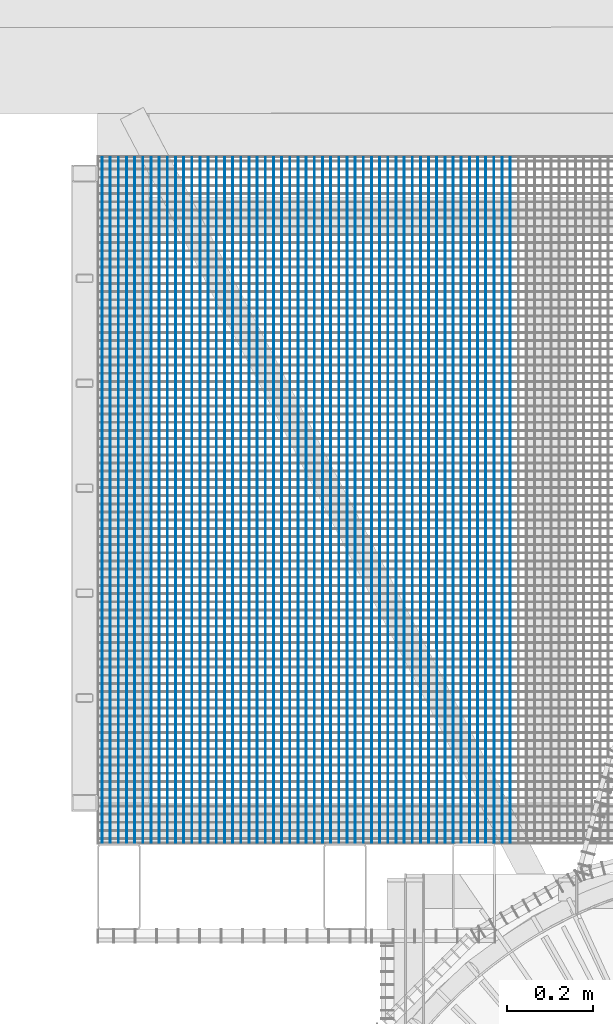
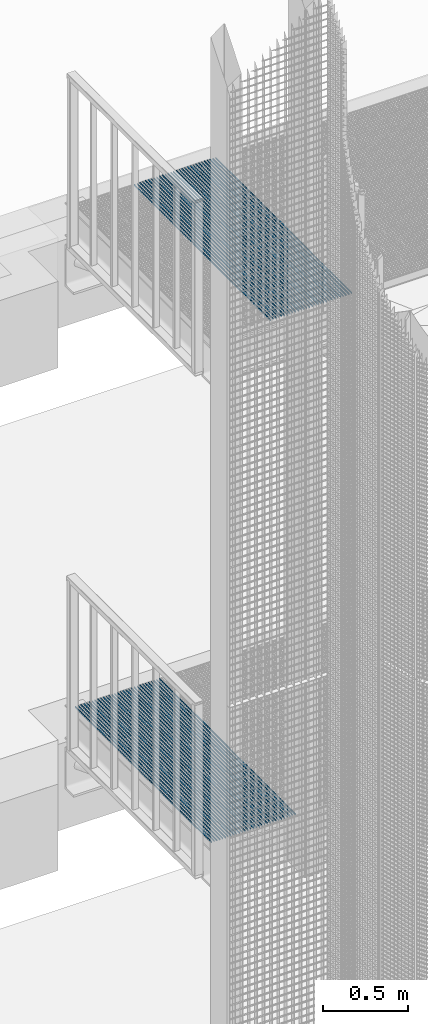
# One storey, part 79 of 1183: 61 beams, 2 elements without a shape of their own.
"""IFC2X3 building model written with IfcOpenShell, lengths in millimetres."""

from ifc_helpers import new_model, si_unit, frame, origin_with_axes, origin_2d_with_axis, place, context, subcontext, project, spatial, rectangle, extrude, material, type_object, element, aggregate, save


model = new_model("IFC2X3")

# Units and contexts
model_context = context("Model", 3, precision=1e-05, world=origin_with_axes())
body_context = subcontext(model_context, "Body", "Model", "MODEL_VIEW")
ifc_project = project(units=[si_unit("LENGTHUNIT", "METRE", prefix="MILLI"), si_unit("AREAUNIT", "SQUARE_METRE"), si_unit("VOLUMEUNIT", "CUBIC_METRE"), si_unit("MASSUNIT", "GRAM", prefix="KILO"), si_unit("TIMEUNIT", "SECOND"), si_unit("PLANEANGLEUNIT", "RADIAN"), si_unit("SOLIDANGLEUNIT", "STERADIAN"), si_unit("THERMODYNAMICTEMPERATUREUNIT", "DEGREE_CELSIUS"), si_unit("LUMINOUSINTENSITYUNIT", "LUMEN")], contexts=[model_context])

# Site, building, storey
site_placement = place(None, origin_with_axes())
site = spatial("IfcSite", under=ifc_project, at=site_placement, Name="Undefined", CompositionType="ELEMENT")
building_placement = place(site_placement, origin_with_axes())
building = spatial("IfcBuilding", under=site, at=building_placement, Name="Undefined", CompositionType="ELEMENT")
storey_placement = place(building_placement, origin_with_axes())
storey = spatial("IfcBuildingStorey", under=building, at=storey_placement, Name="Undefined", CompositionType="ELEMENT", Elevation=0.0)

# Assembly, beams
assembly_1_placement = place(storey_placement, origin_with_axes())
assembly_1 = element("IfcElementAssembly", 1, at=assembly_1_placement, inside=storey, Name="BORDURE", AssemblyPlace="NOTDEFINED", PredefinedType="NOTDEFINED")
ifc_material = material(Name="STEEL/S235JR")
beam_type = type_object("IfcBeamType", Name="PL2*10", PredefinedType="NOTDEFINED")
beam_1_placement = place(assembly_1_placement, frame((-1139.92457525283, 1101.99670793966, 13685.0), z_axis=(0.0, 0.0, 1.0), x_axis=(-4.50599999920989e-06, 0.999999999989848, 0.0)))
beam_1 = element("IfcBeam", 2, at=beam_1_placement, type_object=beam_type, material=ifc_material, Name="ENTRETOISE", context=body_context, shape_type="SweptSolid", body=[
    extrude(rectangle(XDim=2.0, YDim=10.0, at=origin_2d_with_axis()), frame((1596.0000000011, -1.35186458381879e-18, -7.27595761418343e-12), z_axis=(-1.0, 0.0, 0.0), x_axis=(0.0, -1.0, 0.0)), (0.0, 0.0, 1.0), 1596.0),
])
beam_2_placement = place(assembly_1_placement, frame((-1120.92457525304, 1101.99680145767, 13685.0), z_axis=(0.0, 0.0, 1.0), x_axis=(-4.50599999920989e-06, 0.999999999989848, 0.0)))
beam_2 = element("IfcBeam", 3, at=beam_2_placement, type_object=beam_type, material=ifc_material, Name="ENTRETOISE", context=body_context, shape_type="SweptSolid", body=[
    extrude(rectangle(XDim=2.0, YDim=10.0, at=origin_2d_with_axis()), frame((1596.0000000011, -1.35186458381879e-18, -7.27595761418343e-12), z_axis=(-1.0, 0.0, 0.0), x_axis=(0.0, -1.0, 0.0)), (0.0, 0.0, 1.0), 1596.0),
])
beam_3_placement = place(assembly_1_placement, frame((-1101.92457525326, 1101.99689497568, 13685.0), z_axis=(0.0, 0.0, 1.0), x_axis=(-4.50599999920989e-06, 0.999999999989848, 0.0)))
beam_3 = element("IfcBeam", 4, at=beam_3_placement, type_object=beam_type, material=ifc_material, Name="ENTRETOISE", context=body_context, shape_type="SweptSolid", body=[
    extrude(rectangle(XDim=2.0, YDim=10.0, at=origin_2d_with_axis()), frame((1596.0000000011, -1.35186458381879e-18, -7.27595761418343e-12), z_axis=(-1.0, 0.0, 0.0), x_axis=(0.0, -1.0, 0.0)), (0.0, 0.0, 1.0), 1596.0),
])
beam_4_placement = place(assembly_1_placement, frame((-1082.92457525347, 1101.99698849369, 13685.0), z_axis=(0.0, 0.0, 1.0), x_axis=(-4.50599999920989e-06, 0.999999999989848, 0.0)))
beam_4 = element("IfcBeam", 5, at=beam_4_placement, type_object=beam_type, material=ifc_material, Name="ENTRETOISE", context=body_context, shape_type="SweptSolid", body=[
    extrude(rectangle(XDim=2.0, YDim=10.0, at=origin_2d_with_axis()), frame((1596.0000000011, -1.35186458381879e-18, -7.27595761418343e-12), z_axis=(-1.0, 0.0, 0.0), x_axis=(0.0, -1.0, 0.0)), (0.0, 0.0, 1.0), 1596.0),
])
beam_5_placement = place(assembly_1_placement, frame((-1063.92457525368, 1101.9970820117, 13685.0), z_axis=(0.0, 0.0, 1.0), x_axis=(-4.50599999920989e-06, 0.999999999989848, 0.0)))
beam_5 = element("IfcBeam", 6, at=beam_5_placement, type_object=beam_type, material=ifc_material, Name="ENTRETOISE", context=body_context, shape_type="SweptSolid", body=[
    extrude(rectangle(XDim=2.0, YDim=10.0, at=origin_2d_with_axis()), frame((1596.0000000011, -1.35186458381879e-18, -7.27595761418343e-12), z_axis=(-1.0, 0.0, 0.0), x_axis=(0.0, -1.0, 0.0)), (0.0, 0.0, 1.0), 1596.0),
])
beam_6_placement = place(assembly_1_placement, frame((-1044.9245752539, 1101.99717552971, 13685.0), z_axis=(0.0, 0.0, 1.0), x_axis=(-4.50599999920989e-06, 0.999999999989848, 0.0)))
beam_6 = element("IfcBeam", 7, at=beam_6_placement, type_object=beam_type, material=ifc_material, Name="ENTRETOISE", context=body_context, shape_type="SweptSolid", body=[
    extrude(rectangle(XDim=2.0, YDim=10.0, at=origin_2d_with_axis()), frame((1596.0000000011, -1.35186458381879e-18, -7.27595761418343e-12), z_axis=(-1.0, 0.0, 0.0), x_axis=(0.0, -1.0, 0.0)), (0.0, 0.0, 1.0), 1596.0),
])
beam_7_placement = place(assembly_1_placement, frame((-1025.92457525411, 1101.99726904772, 13685.0), z_axis=(0.0, 0.0, 1.0), x_axis=(-4.50599999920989e-06, 0.999999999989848, 0.0)))
beam_7 = element("IfcBeam", 8, at=beam_7_placement, type_object=beam_type, material=ifc_material, Name="ENTRETOISE", context=body_context, shape_type="SweptSolid", body=[
    extrude(rectangle(XDim=2.0, YDim=10.0, at=origin_2d_with_axis()), frame((1596.0000000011, -1.35186458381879e-18, -7.27595761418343e-12), z_axis=(-1.0, 0.0, 0.0), x_axis=(0.0, -1.0, 0.0)), (0.0, 0.0, 1.0), 1596.0),
])
beam_8_placement = place(assembly_1_placement, frame((-1006.92457525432, 1101.99736256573, 13685.0), z_axis=(0.0, 0.0, 1.0), x_axis=(-4.50599999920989e-06, 0.999999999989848, 0.0)))
beam_8 = element("IfcBeam", 9, at=beam_8_placement, type_object=beam_type, material=ifc_material, Name="ENTRETOISE", context=body_context, shape_type="SweptSolid", body=[
    extrude(rectangle(XDim=2.0, YDim=10.0, at=origin_2d_with_axis()), frame((1596.0000000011, -1.35186458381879e-18, -7.27595761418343e-12), z_axis=(-1.0, 0.0, 0.0), x_axis=(0.0, -1.0, 0.0)), (0.0, 0.0, 1.0), 1596.0),
])
beam_9_placement = place(assembly_1_placement, frame((-987.924575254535, 1101.99745608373, 13685.0), z_axis=(0.0, 0.0, 1.0), x_axis=(-4.50599999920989e-06, 0.999999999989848, 0.0)))
beam_9 = element("IfcBeam", 10, at=beam_9_placement, type_object=beam_type, material=ifc_material, Name="ENTRETOISE", context=body_context, shape_type="SweptSolid", body=[
    extrude(rectangle(XDim=2.0, YDim=10.0, at=origin_2d_with_axis()), frame((1596.0000000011, -1.35186458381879e-18, -7.27595761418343e-12), z_axis=(-1.0, 0.0, 0.0), x_axis=(0.0, -1.0, 0.0)), (0.0, 0.0, 1.0), 1596.0),
])
beam_10_placement = place(assembly_1_placement, frame((-968.924575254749, 1101.99754960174, 13685.0), z_axis=(0.0, 0.0, 1.0), x_axis=(-4.50599999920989e-06, 0.999999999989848, 0.0)))
beam_10 = element("IfcBeam", 11, at=beam_10_placement, type_object=beam_type, material=ifc_material, Name="ENTRETOISE", context=body_context, shape_type="SweptSolid", body=[
    extrude(rectangle(XDim=2.0, YDim=10.0, at=origin_2d_with_axis()), frame((1596.0000000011, -1.35186458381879e-18, -7.27595761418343e-12), z_axis=(-1.0, 0.0, 0.0), x_axis=(0.0, -1.0, 0.0)), (0.0, 0.0, 1.0), 1596.0),
])
beam_11_placement = place(assembly_1_placement, frame((-949.924575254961, 1101.99764311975, 13685.0), z_axis=(0.0, 0.0, 1.0), x_axis=(-4.50599999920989e-06, 0.999999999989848, 0.0)))
beam_11 = element("IfcBeam", 12, at=beam_11_placement, type_object=beam_type, material=ifc_material, Name="ENTRETOISE", context=body_context, shape_type="SweptSolid", body=[
    extrude(rectangle(XDim=2.0, YDim=10.0, at=origin_2d_with_axis()), frame((1596.0000000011, -1.35186458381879e-18, -7.27595761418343e-12), z_axis=(-1.0, 0.0, 0.0), x_axis=(0.0, -1.0, 0.0)), (0.0, 0.0, 1.0), 1596.0),
])
beam_12_placement = place(assembly_1_placement, frame((-930.924575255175, 1101.99773663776, 13685.0), z_axis=(0.0, 0.0, 1.0), x_axis=(-4.50599999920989e-06, 0.999999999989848, 0.0)))
beam_12 = element("IfcBeam", 13, at=beam_12_placement, type_object=beam_type, material=ifc_material, Name="ENTRETOISE", context=body_context, shape_type="SweptSolid", body=[
    extrude(rectangle(XDim=2.0, YDim=10.0, at=origin_2d_with_axis()), frame((1596.0000000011, -1.35186458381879e-18, -7.27595761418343e-12), z_axis=(-1.0, 0.0, 0.0), x_axis=(0.0, -1.0, 0.0)), (0.0, 0.0, 1.0), 1596.0),
])
beam_13_placement = place(assembly_1_placement, frame((-911.924575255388, 1101.99783015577, 13685.0), z_axis=(0.0, 0.0, 1.0), x_axis=(-4.50599999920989e-06, 0.999999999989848, 0.0)))
beam_13 = element("IfcBeam", 14, at=beam_13_placement, type_object=beam_type, material=ifc_material, Name="ENTRETOISE", context=body_context, shape_type="SweptSolid", body=[
    extrude(rectangle(XDim=2.0, YDim=10.0, at=origin_2d_with_axis()), frame((1596.0000000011, -1.35186458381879e-18, -7.27595761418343e-12), z_axis=(-1.0, 0.0, 0.0), x_axis=(0.0, -1.0, 0.0)), (0.0, 0.0, 1.0), 1596.0),
])
beam_14_placement = place(assembly_1_placement, frame((-892.924575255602, 1101.99792367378, 13685.0), z_axis=(0.0, 0.0, 1.0), x_axis=(-4.50599999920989e-06, 0.999999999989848, 0.0)))
beam_14 = element("IfcBeam", 15, at=beam_14_placement, type_object=beam_type, material=ifc_material, Name="ENTRETOISE", context=body_context, shape_type="SweptSolid", body=[
    extrude(rectangle(XDim=2.0, YDim=10.0, at=origin_2d_with_axis()), frame((1596.0000000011, -1.35186458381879e-18, -7.27595761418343e-12), z_axis=(-1.0, 0.0, 0.0), x_axis=(0.0, -1.0, 0.0)), (0.0, 0.0, 1.0), 1596.0),
])
beam_15_placement = place(assembly_1_placement, frame((-873.924575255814, 1101.99801719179, 13685.0), z_axis=(0.0, 0.0, 1.0), x_axis=(-4.50599999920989e-06, 0.999999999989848, 0.0)))
beam_15 = element("IfcBeam", 16, at=beam_15_placement, type_object=beam_type, material=ifc_material, Name="ENTRETOISE", context=body_context, shape_type="SweptSolid", body=[
    extrude(rectangle(XDim=2.0, YDim=10.0, at=origin_2d_with_axis()), frame((1596.0000000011, -1.35186458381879e-18, -7.27595761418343e-12), z_axis=(-1.0, 0.0, 0.0), x_axis=(0.0, -1.0, 0.0)), (0.0, 0.0, 1.0), 1596.0),
])
beam_16_placement = place(assembly_1_placement, frame((-854.924575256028, 1101.9981107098, 13685.0), z_axis=(0.0, 0.0, 1.0), x_axis=(-4.50599999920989e-06, 0.999999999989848, 0.0)))
beam_16 = element("IfcBeam", 17, at=beam_16_placement, type_object=beam_type, material=ifc_material, Name="ENTRETOISE", context=body_context, shape_type="SweptSolid", body=[
    extrude(rectangle(XDim=2.0, YDim=10.0, at=origin_2d_with_axis()), frame((1596.0000000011, -1.35186458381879e-18, -7.27595761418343e-12), z_axis=(-1.0, 0.0, 0.0), x_axis=(0.0, -1.0, 0.0)), (0.0, 0.0, 1.0), 1596.0),
])
beam_17_placement = place(assembly_1_placement, frame((-835.924575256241, 1101.99820422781, 13685.0), z_axis=(0.0, 0.0, 1.0), x_axis=(-4.50599999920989e-06, 0.999999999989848, 0.0)))
beam_17 = element("IfcBeam", 18, at=beam_17_placement, type_object=beam_type, material=ifc_material, Name="ENTRETOISE", context=body_context, shape_type="SweptSolid", body=[
    extrude(rectangle(XDim=2.0, YDim=10.0, at=origin_2d_with_axis()), frame((1596.0000000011, -1.35186458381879e-18, -7.27595761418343e-12), z_axis=(-1.0, 0.0, 0.0), x_axis=(0.0, -1.0, 0.0)), (0.0, 0.0, 1.0), 1596.0),
])
beam_18_placement = place(assembly_1_placement, frame((-816.924575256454, 1101.99829774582, 13685.0), z_axis=(0.0, 0.0, 1.0), x_axis=(-4.50599999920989e-06, 0.999999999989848, 0.0)))
beam_18 = element("IfcBeam", 19, at=beam_18_placement, type_object=beam_type, material=ifc_material, Name="ENTRETOISE", context=body_context, shape_type="SweptSolid", body=[
    extrude(rectangle(XDim=2.0, YDim=10.0, at=origin_2d_with_axis()), frame((1596.0000000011, -1.35186458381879e-18, -7.27595761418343e-12), z_axis=(-1.0, 0.0, 0.0), x_axis=(0.0, -1.0, 0.0)), (0.0, 0.0, 1.0), 1596.0),
])
beam_19_placement = place(assembly_1_placement, frame((-797.924575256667, 1101.99839126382, 13685.0), z_axis=(0.0, 0.0, 1.0), x_axis=(-4.50599999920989e-06, 0.999999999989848, 0.0)))
beam_19 = element("IfcBeam", 20, at=beam_19_placement, type_object=beam_type, material=ifc_material, Name="ENTRETOISE", context=body_context, shape_type="SweptSolid", body=[
    extrude(rectangle(XDim=2.0, YDim=10.0, at=origin_2d_with_axis()), frame((1596.0000000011, -1.35186458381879e-18, -7.27595761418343e-12), z_axis=(-1.0, 0.0, 0.0), x_axis=(0.0, -1.0, 0.0)), (0.0, 0.0, 1.0), 1596.0),
])
beam_20_placement = place(assembly_1_placement, frame((-778.924575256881, 1101.99848478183, 13685.0), z_axis=(0.0, 0.0, 1.0), x_axis=(-4.50599999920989e-06, 0.999999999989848, 0.0)))
beam_20 = element("IfcBeam", 21, at=beam_20_placement, type_object=beam_type, material=ifc_material, Name="ENTRETOISE", context=body_context, shape_type="SweptSolid", body=[
    extrude(rectangle(XDim=2.0, YDim=10.0, at=origin_2d_with_axis()), frame((1596.0000000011, -1.35186458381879e-18, -7.27595761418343e-12), z_axis=(-1.0, 0.0, 0.0), x_axis=(0.0, -1.0, 0.0)), (0.0, 0.0, 1.0), 1596.0),
])
beam_21_placement = place(assembly_1_placement, frame((-759.924575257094, 1101.99857829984, 13685.0), z_axis=(0.0, 0.0, 1.0), x_axis=(-4.50599999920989e-06, 0.999999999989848, 0.0)))
beam_21 = element("IfcBeam", 22, at=beam_21_placement, type_object=beam_type, material=ifc_material, Name="ENTRETOISE", context=body_context, shape_type="SweptSolid", body=[
    extrude(rectangle(XDim=2.0, YDim=10.0, at=origin_2d_with_axis()), frame((1596.0000000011, -1.35186458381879e-18, -7.27595761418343e-12), z_axis=(-1.0, 0.0, 0.0), x_axis=(0.0, -1.0, 0.0)), (0.0, 0.0, 1.0), 1596.0),
])
beam_22_placement = place(assembly_1_placement, frame((-740.924575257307, 1101.99867181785, 13685.0), z_axis=(0.0, 0.0, 1.0), x_axis=(-4.50599999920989e-06, 0.999999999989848, 0.0)))
beam_22 = element("IfcBeam", 23, at=beam_22_placement, type_object=beam_type, material=ifc_material, Name="ENTRETOISE", context=body_context, shape_type="SweptSolid", body=[
    extrude(rectangle(XDim=2.0, YDim=10.0, at=origin_2d_with_axis()), frame((1596.0000000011, -1.35186458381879e-18, -7.27595761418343e-12), z_axis=(-1.0, 0.0, 0.0), x_axis=(0.0, -1.0, 0.0)), (0.0, 0.0, 1.0), 1596.0),
])
beam_23_placement = place(assembly_1_placement, frame((-721.92457525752, 1101.99876533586, 13685.0), z_axis=(0.0, 0.0, 1.0), x_axis=(-4.50599999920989e-06, 0.999999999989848, 0.0)))
beam_23 = element("IfcBeam", 24, at=beam_23_placement, type_object=beam_type, material=ifc_material, Name="ENTRETOISE", context=body_context, shape_type="SweptSolid", body=[
    extrude(rectangle(XDim=2.0, YDim=10.0, at=origin_2d_with_axis()), frame((1596.0000000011, -1.35186458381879e-18, -7.27595761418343e-12), z_axis=(-1.0, 0.0, 0.0), x_axis=(0.0, -1.0, 0.0)), (0.0, 0.0, 1.0), 1596.0),
])
beam_24_placement = place(assembly_1_placement, frame((-702.924575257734, 1101.99885885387, 13685.0), z_axis=(0.0, 0.0, 1.0), x_axis=(-4.50599999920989e-06, 0.999999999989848, 0.0)))
beam_24 = element("IfcBeam", 25, at=beam_24_placement, type_object=beam_type, material=ifc_material, Name="ENTRETOISE", context=body_context, shape_type="SweptSolid", body=[
    extrude(rectangle(XDim=2.0, YDim=10.0, at=origin_2d_with_axis()), frame((1596.0000000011, -1.35186458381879e-18, -7.27595761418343e-12), z_axis=(-1.0, 0.0, 0.0), x_axis=(0.0, -1.0, 0.0)), (0.0, 0.0, 1.0), 1596.0),
])
beam_25_placement = place(assembly_1_placement, frame((-683.924575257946, 1101.99895237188, 13685.0), z_axis=(0.0, 0.0, 1.0), x_axis=(-4.50599999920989e-06, 0.999999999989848, 0.0)))
beam_25 = element("IfcBeam", 26, at=beam_25_placement, type_object=beam_type, material=ifc_material, Name="ENTRETOISE", context=body_context, shape_type="SweptSolid", body=[
    extrude(rectangle(XDim=2.0, YDim=10.0, at=origin_2d_with_axis()), frame((1596.0000000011, -1.35186458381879e-18, -7.27595761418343e-12), z_axis=(-1.0, 0.0, 0.0), x_axis=(0.0, -1.0, 0.0)), (0.0, 0.0, 1.0), 1596.0),
])
beam_26_placement = place(assembly_1_placement, frame((-664.92457525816, 1101.99904588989, 13685.0), z_axis=(0.0, 0.0, 1.0), x_axis=(-4.50599999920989e-06, 0.999999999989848, 0.0)))
beam_26 = element("IfcBeam", 27, at=beam_26_placement, type_object=beam_type, material=ifc_material, Name="ENTRETOISE", context=body_context, shape_type="SweptSolid", body=[
    extrude(rectangle(XDim=2.0, YDim=10.0, at=origin_2d_with_axis()), frame((1596.0000000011, -1.35186458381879e-18, -7.27595761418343e-12), z_axis=(-1.0, 0.0, 0.0), x_axis=(0.0, -1.0, 0.0)), (0.0, 0.0, 1.0), 1596.0),
])
beam_27_placement = place(assembly_1_placement, frame((-645.924575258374, 1101.9991394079, 13685.0), z_axis=(0.0, 0.0, 1.0), x_axis=(-4.50599999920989e-06, 0.999999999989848, 0.0)))
beam_27 = element("IfcBeam", 28, at=beam_27_placement, type_object=beam_type, material=ifc_material, Name="ENTRETOISE", context=body_context, shape_type="SweptSolid", body=[
    extrude(rectangle(XDim=2.0, YDim=10.0, at=origin_2d_with_axis()), frame((1596.0000000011, -1.35186458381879e-18, -7.27595761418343e-12), z_axis=(-1.0, 0.0, 0.0), x_axis=(0.0, -1.0, 0.0)), (0.0, 0.0, 1.0), 1596.0),
])
beam_28_placement = place(assembly_1_placement, frame((-626.924575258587, 1101.99923292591, 13685.0), z_axis=(0.0, 0.0, 1.0), x_axis=(-4.50599999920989e-06, 0.999999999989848, 0.0)))
beam_28 = element("IfcBeam", 29, at=beam_28_placement, type_object=beam_type, material=ifc_material, Name="ENTRETOISE", context=body_context, shape_type="SweptSolid", body=[
    extrude(rectangle(XDim=2.0, YDim=10.0, at=origin_2d_with_axis()), frame((1596.0000000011, -1.35186458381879e-18, -7.27595761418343e-12), z_axis=(-1.0, 0.0, 0.0), x_axis=(0.0, -1.0, 0.0)), (0.0, 0.0, 1.0), 1596.0),
])
beam_29_placement = place(assembly_1_placement, frame((-607.924575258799, 1101.99932644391, 13685.0), z_axis=(0.0, 0.0, 1.0), x_axis=(-4.50599999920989e-06, 0.999999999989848, 0.0)))
beam_29 = element("IfcBeam", 30, at=beam_29_placement, type_object=beam_type, material=ifc_material, Name="ENTRETOISE", context=body_context, shape_type="SweptSolid", body=[
    extrude(rectangle(XDim=2.0, YDim=10.0, at=origin_2d_with_axis()), frame((1596.0000000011, -1.35186458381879e-18, -7.27595761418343e-12), z_axis=(-1.0, 0.0, 0.0), x_axis=(0.0, -1.0, 0.0)), (0.0, 0.0, 1.0), 1596.0),
])
beam_30_placement = place(assembly_1_placement, frame((-588.924575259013, 1101.99941996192, 13685.0), z_axis=(0.0, 0.0, 1.0), x_axis=(-4.50599999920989e-06, 0.999999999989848, 0.0)))
beam_30 = element("IfcBeam", 31, at=beam_30_placement, type_object=beam_type, material=ifc_material, Name="ENTRETOISE", context=body_context, shape_type="SweptSolid", body=[
    extrude(rectangle(XDim=2.0, YDim=10.0, at=origin_2d_with_axis()), frame((1596.0000000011, -1.35186458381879e-18, -7.27595761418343e-12), z_axis=(-1.0, 0.0, 0.0), x_axis=(0.0, -1.0, 0.0)), (0.0, 0.0, 1.0), 1596.0),
])
aggregate(assembly_1, [beam_1, beam_2, beam_3, beam_4, beam_5, beam_6, beam_7, beam_8, beam_9, beam_10, beam_11, beam_12, beam_13, beam_14, beam_15, beam_16, beam_17, beam_18, beam_19, beam_20, beam_21, beam_22, beam_23, beam_24, beam_25, beam_26, beam_27, beam_28, beam_29, beam_30])

assembly_2_placement = place(storey_placement, origin_with_axes())
assembly_2 = element("IfcElementAssembly", 32, at=assembly_2_placement, inside=storey, Name="BORDURE", AssemblyPlace="NOTDEFINED", PredefinedType="NOTDEFINED")
beam_31_placement = place(assembly_2_placement, frame((-1538.92457524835, 1101.99474406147, 10085.0), z_axis=(0.0, 0.0, 1.0), x_axis=(-4.50599999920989e-06, 0.999999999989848, 0.0)))
beam_31 = element("IfcBeam", 33, at=beam_31_placement, type_object=beam_type, material=ifc_material, Name="ENTRETOISE", context=body_context, shape_type="SweptSolid", body=[
    extrude(rectangle(XDim=2.0, YDim=10.0, at=origin_2d_with_axis()), frame((1596.0000000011, -1.35186458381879e-18, -7.27595761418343e-12), z_axis=(-1.0, 0.0, 0.0), x_axis=(0.0, -1.0, 0.0)), (0.0, 0.0, 1.0), 1596.0),
])
beam_32_placement = place(assembly_2_placement, frame((-1519.92457524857, 1101.99483757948, 10085.0), z_axis=(0.0, 0.0, 1.0), x_axis=(-4.50599999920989e-06, 0.999999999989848, 0.0)))
beam_32 = element("IfcBeam", 34, at=beam_32_placement, type_object=beam_type, material=ifc_material, Name="ENTRETOISE", context=body_context, shape_type="SweptSolid", body=[
    extrude(rectangle(XDim=2.0, YDim=10.0, at=origin_2d_with_axis()), frame((1596.0000000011, -1.35186458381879e-18, -7.27595761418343e-12), z_axis=(-1.0, 0.0, 0.0), x_axis=(0.0, -1.0, 0.0)), (0.0, 0.0, 1.0), 1596.0),
])
beam_33_placement = place(assembly_2_placement, frame((-1500.92457524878, 1101.99493109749, 10085.0), z_axis=(0.0, 0.0, 1.0), x_axis=(-4.50599999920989e-06, 0.999999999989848, 0.0)))
beam_33 = element("IfcBeam", 35, at=beam_33_placement, type_object=beam_type, material=ifc_material, Name="ENTRETOISE", context=body_context, shape_type="SweptSolid", body=[
    extrude(rectangle(XDim=2.0, YDim=10.0, at=origin_2d_with_axis()), frame((1596.0000000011, -1.35186458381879e-18, -7.27595761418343e-12), z_axis=(-1.0, 0.0, 0.0), x_axis=(0.0, -1.0, 0.0)), (0.0, 0.0, 1.0), 1596.0),
])
beam_34_placement = place(assembly_2_placement, frame((-1481.92457524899, 1101.9950246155, 10085.0), z_axis=(0.0, 0.0, 1.0), x_axis=(-4.50599999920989e-06, 0.999999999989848, 0.0)))
beam_34 = element("IfcBeam", 36, at=beam_34_placement, type_object=beam_type, material=ifc_material, Name="ENTRETOISE", context=body_context, shape_type="SweptSolid", body=[
    extrude(rectangle(XDim=2.0, YDim=10.0, at=origin_2d_with_axis()), frame((1596.0000000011, -1.35186458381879e-18, -7.27595761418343e-12), z_axis=(-1.0, 0.0, 0.0), x_axis=(0.0, -1.0, 0.0)), (0.0, 0.0, 1.0), 1596.0),
])
beam_35_placement = place(assembly_2_placement, frame((-1462.92457524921, 1101.99511813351, 10085.0), z_axis=(0.0, 0.0, 1.0), x_axis=(-4.50599999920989e-06, 0.999999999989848, 0.0)))
beam_35 = element("IfcBeam", 37, at=beam_35_placement, type_object=beam_type, material=ifc_material, Name="ENTRETOISE", context=body_context, shape_type="SweptSolid", body=[
    extrude(rectangle(XDim=2.0, YDim=10.0, at=origin_2d_with_axis()), frame((1596.0000000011, -1.35186458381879e-18, -7.27595761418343e-12), z_axis=(-1.0, 0.0, 0.0), x_axis=(0.0, -1.0, 0.0)), (0.0, 0.0, 1.0), 1596.0),
])
beam_36_placement = place(assembly_2_placement, frame((-1443.92457524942, 1101.99521165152, 10085.0), z_axis=(0.0, 0.0, 1.0), x_axis=(-4.50599999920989e-06, 0.999999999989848, 0.0)))
beam_36 = element("IfcBeam", 38, at=beam_36_placement, type_object=beam_type, material=ifc_material, Name="ENTRETOISE", context=body_context, shape_type="SweptSolid", body=[
    extrude(rectangle(XDim=2.0, YDim=10.0, at=origin_2d_with_axis()), frame((1596.0000000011, -1.35186458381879e-18, -7.27595761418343e-12), z_axis=(-1.0, 0.0, 0.0), x_axis=(0.0, -1.0, 0.0)), (0.0, 0.0, 1.0), 1596.0),
])
beam_37_placement = place(assembly_2_placement, frame((-1424.92457524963, 1101.99530516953, 10085.0), z_axis=(0.0, 0.0, 1.0), x_axis=(-4.50599999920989e-06, 0.999999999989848, 0.0)))
beam_37 = element("IfcBeam", 39, at=beam_37_placement, type_object=beam_type, material=ifc_material, Name="ENTRETOISE", context=body_context, shape_type="SweptSolid", body=[
    extrude(rectangle(XDim=2.0, YDim=10.0, at=origin_2d_with_axis()), frame((1596.0000000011, -1.35186458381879e-18, -7.27595761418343e-12), z_axis=(-1.0, 0.0, 0.0), x_axis=(0.0, -1.0, 0.0)), (0.0, 0.0, 1.0), 1596.0),
])
beam_38_placement = place(assembly_2_placement, frame((-1405.92457524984, 1101.99539868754, 10085.0), z_axis=(0.0, 0.0, 1.0), x_axis=(-4.50599999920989e-06, 0.999999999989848, 0.0)))
beam_38 = element("IfcBeam", 40, at=beam_38_placement, type_object=beam_type, material=ifc_material, Name="ENTRETOISE", context=body_context, shape_type="SweptSolid", body=[
    extrude(rectangle(XDim=2.0, YDim=10.0, at=origin_2d_with_axis()), frame((1596.0000000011, -1.35186458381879e-18, -7.27595761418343e-12), z_axis=(-1.0, 0.0, 0.0), x_axis=(0.0, -1.0, 0.0)), (0.0, 0.0, 1.0), 1596.0),
])
beam_39_placement = place(assembly_2_placement, frame((-1386.92457525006, 1101.99549220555, 10085.0), z_axis=(0.0, 0.0, 1.0), x_axis=(-4.50599999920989e-06, 0.999999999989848, 0.0)))
beam_39 = element("IfcBeam", 41, at=beam_39_placement, type_object=beam_type, material=ifc_material, Name="ENTRETOISE", context=body_context, shape_type="SweptSolid", body=[
    extrude(rectangle(XDim=2.0, YDim=10.0, at=origin_2d_with_axis()), frame((1596.0000000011, -1.35186458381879e-18, -7.27595761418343e-12), z_axis=(-1.0, 0.0, 0.0), x_axis=(0.0, -1.0, 0.0)), (0.0, 0.0, 1.0), 1596.0),
])
beam_40_placement = place(assembly_2_placement, frame((-1367.92457525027, 1101.99558572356, 10085.0), z_axis=(0.0, 0.0, 1.0), x_axis=(-4.50599999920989e-06, 0.999999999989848, 0.0)))
beam_40 = element("IfcBeam", 42, at=beam_40_placement, type_object=beam_type, material=ifc_material, Name="ENTRETOISE", context=body_context, shape_type="SweptSolid", body=[
    extrude(rectangle(XDim=2.0, YDim=10.0, at=origin_2d_with_axis()), frame((1596.0000000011, -1.35186458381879e-18, -7.27595761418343e-12), z_axis=(-1.0, 0.0, 0.0), x_axis=(0.0, -1.0, 0.0)), (0.0, 0.0, 1.0), 1596.0),
])
beam_41_placement = place(assembly_2_placement, frame((-1348.92457525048, 1101.99567924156, 10085.0), z_axis=(0.0, 0.0, 1.0), x_axis=(-4.50599999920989e-06, 0.999999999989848, 0.0)))
beam_41 = element("IfcBeam", 43, at=beam_41_placement, type_object=beam_type, material=ifc_material, Name="ENTRETOISE", context=body_context, shape_type="SweptSolid", body=[
    extrude(rectangle(XDim=2.0, YDim=10.0, at=origin_2d_with_axis()), frame((1596.0000000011, -1.35186458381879e-18, -7.27595761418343e-12), z_axis=(-1.0, 0.0, 0.0), x_axis=(0.0, -1.0, 0.0)), (0.0, 0.0, 1.0), 1596.0),
])
beam_42_placement = place(assembly_2_placement, frame((-1329.9245752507, 1101.99577275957, 10085.0), z_axis=(0.0, 0.0, 1.0), x_axis=(-4.50599999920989e-06, 0.999999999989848, 0.0)))
beam_42 = element("IfcBeam", 44, at=beam_42_placement, type_object=beam_type, material=ifc_material, Name="ENTRETOISE", context=body_context, shape_type="SweptSolid", body=[
    extrude(rectangle(XDim=2.0, YDim=10.0, at=origin_2d_with_axis()), frame((1596.0000000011, -1.35186458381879e-18, -7.27595761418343e-12), z_axis=(-1.0, 0.0, 0.0), x_axis=(0.0, -1.0, 0.0)), (0.0, 0.0, 1.0), 1596.0),
])
beam_43_placement = place(assembly_2_placement, frame((-1310.92457525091, 1101.99586627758, 10085.0), z_axis=(0.0, 0.0, 1.0), x_axis=(-4.50599999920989e-06, 0.999999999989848, 0.0)))
beam_43 = element("IfcBeam", 45, at=beam_43_placement, type_object=beam_type, material=ifc_material, Name="ENTRETOISE", context=body_context, shape_type="SweptSolid", body=[
    extrude(rectangle(XDim=2.0, YDim=10.0, at=origin_2d_with_axis()), frame((1596.0000000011, -1.35186458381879e-18, -7.27595761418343e-12), z_axis=(-1.0, 0.0, 0.0), x_axis=(0.0, -1.0, 0.0)), (0.0, 0.0, 1.0), 1596.0),
])
beam_44_placement = place(assembly_2_placement, frame((-1291.92457525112, 1101.99595979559, 10085.0), z_axis=(0.0, 0.0, 1.0), x_axis=(-4.50599999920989e-06, 0.999999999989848, 0.0)))
beam_44 = element("IfcBeam", 46, at=beam_44_placement, type_object=beam_type, material=ifc_material, Name="ENTRETOISE", context=body_context, shape_type="SweptSolid", body=[
    extrude(rectangle(XDim=2.0, YDim=10.0, at=origin_2d_with_axis()), frame((1596.0000000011, -1.35186458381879e-18, -7.27595761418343e-12), z_axis=(-1.0, 0.0, 0.0), x_axis=(0.0, -1.0, 0.0)), (0.0, 0.0, 1.0), 1596.0),
])
beam_45_placement = place(assembly_2_placement, frame((-1272.92457525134, 1101.9960533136, 10085.0), z_axis=(0.0, 0.0, 1.0), x_axis=(-4.50599999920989e-06, 0.999999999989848, 0.0)))
beam_45 = element("IfcBeam", 47, at=beam_45_placement, type_object=beam_type, material=ifc_material, Name="ENTRETOISE", context=body_context, shape_type="SweptSolid", body=[
    extrude(rectangle(XDim=2.0, YDim=10.0, at=origin_2d_with_axis()), frame((1596.0000000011, -1.35186458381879e-18, -7.27595761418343e-12), z_axis=(-1.0, 0.0, 0.0), x_axis=(0.0, -1.0, 0.0)), (0.0, 0.0, 1.0), 1596.0),
])
beam_46_placement = place(assembly_2_placement, frame((-1253.92457525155, 1101.99614683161, 10085.0), z_axis=(0.0, 0.0, 1.0), x_axis=(-4.50599999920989e-06, 0.999999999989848, 0.0)))
beam_46 = element("IfcBeam", 48, at=beam_46_placement, type_object=beam_type, material=ifc_material, Name="ENTRETOISE", context=body_context, shape_type="SweptSolid", body=[
    extrude(rectangle(XDim=2.0, YDim=10.0, at=origin_2d_with_axis()), frame((1596.0000000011, -1.35186458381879e-18, -7.27595761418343e-12), z_axis=(-1.0, 0.0, 0.0), x_axis=(0.0, -1.0, 0.0)), (0.0, 0.0, 1.0), 1596.0),
])
beam_47_placement = place(assembly_2_placement, frame((-1234.92457525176, 1101.99624034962, 10085.0), z_axis=(0.0, 0.0, 1.0), x_axis=(-4.50599999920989e-06, 0.999999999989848, 0.0)))
beam_47 = element("IfcBeam", 49, at=beam_47_placement, type_object=beam_type, material=ifc_material, Name="ENTRETOISE", context=body_context, shape_type="SweptSolid", body=[
    extrude(rectangle(XDim=2.0, YDim=10.0, at=origin_2d_with_axis()), frame((1596.0000000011, -1.35186458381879e-18, -7.27595761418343e-12), z_axis=(-1.0, 0.0, 0.0), x_axis=(0.0, -1.0, 0.0)), (0.0, 0.0, 1.0), 1596.0),
])
beam_48_placement = place(assembly_2_placement, frame((-1215.92457525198, 1101.99633386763, 10085.0), z_axis=(0.0, 0.0, 1.0), x_axis=(-4.50599999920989e-06, 0.999999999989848, 0.0)))
beam_48 = element("IfcBeam", 50, at=beam_48_placement, type_object=beam_type, material=ifc_material, Name="ENTRETOISE", context=body_context, shape_type="SweptSolid", body=[
    extrude(rectangle(XDim=2.0, YDim=10.0, at=origin_2d_with_axis()), frame((1596.0000000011, -1.35186458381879e-18, -7.27595761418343e-12), z_axis=(-1.0, 0.0, 0.0), x_axis=(0.0, -1.0, 0.0)), (0.0, 0.0, 1.0), 1596.0),
])
beam_49_placement = place(assembly_2_placement, frame((-1196.92457525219, 1101.99642738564, 10085.0), z_axis=(0.0, 0.0, 1.0), x_axis=(-4.50599999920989e-06, 0.999999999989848, 0.0)))
beam_49 = element("IfcBeam", 51, at=beam_49_placement, type_object=beam_type, material=ifc_material, Name="ENTRETOISE", context=body_context, shape_type="SweptSolid", body=[
    extrude(rectangle(XDim=2.0, YDim=10.0, at=origin_2d_with_axis()), frame((1596.0000000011, -1.35186458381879e-18, -7.27595761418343e-12), z_axis=(-1.0, 0.0, 0.0), x_axis=(0.0, -1.0, 0.0)), (0.0, 0.0, 1.0), 1596.0),
])
beam_50_placement = place(assembly_2_placement, frame((-1177.9245752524, 1101.99652090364, 10085.0), z_axis=(0.0, 0.0, 1.0), x_axis=(-4.50599999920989e-06, 0.999999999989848, 0.0)))
beam_50 = element("IfcBeam", 52, at=beam_50_placement, type_object=beam_type, material=ifc_material, Name="ENTRETOISE", context=body_context, shape_type="SweptSolid", body=[
    extrude(rectangle(XDim=2.0, YDim=10.0, at=origin_2d_with_axis()), frame((1596.0000000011, -1.35186458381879e-18, -7.27595761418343e-12), z_axis=(-1.0, 0.0, 0.0), x_axis=(0.0, -1.0, 0.0)), (0.0, 0.0, 1.0), 1596.0),
])
beam_51_placement = place(assembly_2_placement, frame((-1158.92457525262, 1101.99661442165, 10085.0), z_axis=(0.0, 0.0, 1.0), x_axis=(-4.50599999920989e-06, 0.999999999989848, 0.0)))
beam_51 = element("IfcBeam", 53, at=beam_51_placement, type_object=beam_type, material=ifc_material, Name="ENTRETOISE", context=body_context, shape_type="SweptSolid", body=[
    extrude(rectangle(XDim=2.0, YDim=10.0, at=origin_2d_with_axis()), frame((1596.0000000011, -1.35186458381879e-18, -7.27595761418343e-12), z_axis=(-1.0, 0.0, 0.0), x_axis=(0.0, -1.0, 0.0)), (0.0, 0.0, 1.0), 1596.0),
])
beam_52_placement = place(assembly_2_placement, frame((-1139.92457525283, 1101.99670793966, 10085.0), z_axis=(0.0, 0.0, 1.0), x_axis=(-4.50599999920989e-06, 0.999999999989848, 0.0)))
beam_52 = element("IfcBeam", 54, at=beam_52_placement, type_object=beam_type, material=ifc_material, Name="ENTRETOISE", context=body_context, shape_type="SweptSolid", body=[
    extrude(rectangle(XDim=2.0, YDim=10.0, at=origin_2d_with_axis()), frame((1596.0000000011, -1.35186458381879e-18, -7.27595761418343e-12), z_axis=(-1.0, 0.0, 0.0), x_axis=(0.0, -1.0, 0.0)), (0.0, 0.0, 1.0), 1596.0),
])
beam_53_placement = place(assembly_2_placement, frame((-1120.92457525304, 1101.99680145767, 10085.0), z_axis=(0.0, 0.0, 1.0), x_axis=(-4.50599999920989e-06, 0.999999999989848, 0.0)))
beam_53 = element("IfcBeam", 55, at=beam_53_placement, type_object=beam_type, material=ifc_material, Name="ENTRETOISE", context=body_context, shape_type="SweptSolid", body=[
    extrude(rectangle(XDim=2.0, YDim=10.0, at=origin_2d_with_axis()), frame((1596.0000000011, -1.35186458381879e-18, -7.27595761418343e-12), z_axis=(-1.0, 0.0, 0.0), x_axis=(0.0, -1.0, 0.0)), (0.0, 0.0, 1.0), 1596.0),
])
beam_54_placement = place(assembly_2_placement, frame((-1101.92457525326, 1101.99689497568, 10085.0), z_axis=(0.0, 0.0, 1.0), x_axis=(-4.50599999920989e-06, 0.999999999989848, 0.0)))
beam_54 = element("IfcBeam", 56, at=beam_54_placement, type_object=beam_type, material=ifc_material, Name="ENTRETOISE", context=body_context, shape_type="SweptSolid", body=[
    extrude(rectangle(XDim=2.0, YDim=10.0, at=origin_2d_with_axis()), frame((1596.0000000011, -1.35186458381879e-18, -7.27595761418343e-12), z_axis=(-1.0, 0.0, 0.0), x_axis=(0.0, -1.0, 0.0)), (0.0, 0.0, 1.0), 1596.0),
])
beam_55_placement = place(assembly_2_placement, frame((-1082.92457525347, 1101.99698849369, 10085.0), z_axis=(0.0, 0.0, 1.0), x_axis=(-4.50599999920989e-06, 0.999999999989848, 0.0)))
beam_55 = element("IfcBeam", 57, at=beam_55_placement, type_object=beam_type, material=ifc_material, Name="ENTRETOISE", context=body_context, shape_type="SweptSolid", body=[
    extrude(rectangle(XDim=2.0, YDim=10.0, at=origin_2d_with_axis()), frame((1596.0000000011, -1.35186458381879e-18, -7.27595761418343e-12), z_axis=(-1.0, 0.0, 0.0), x_axis=(0.0, -1.0, 0.0)), (0.0, 0.0, 1.0), 1596.0),
])
beam_56_placement = place(assembly_2_placement, frame((-1063.92457525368, 1101.9970820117, 10085.0), z_axis=(0.0, 0.0, 1.0), x_axis=(-4.50599999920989e-06, 0.999999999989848, 0.0)))
beam_56 = element("IfcBeam", 58, at=beam_56_placement, type_object=beam_type, material=ifc_material, Name="ENTRETOISE", context=body_context, shape_type="SweptSolid", body=[
    extrude(rectangle(XDim=2.0, YDim=10.0, at=origin_2d_with_axis()), frame((1596.0000000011, -1.35186458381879e-18, -7.27595761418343e-12), z_axis=(-1.0, 0.0, 0.0), x_axis=(0.0, -1.0, 0.0)), (0.0, 0.0, 1.0), 1596.0),
])
beam_57_placement = place(assembly_2_placement, frame((-1044.9245752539, 1101.99717552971, 10085.0), z_axis=(0.0, 0.0, 1.0), x_axis=(-4.50599999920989e-06, 0.999999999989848, 0.0)))
beam_57 = element("IfcBeam", 59, at=beam_57_placement, type_object=beam_type, material=ifc_material, Name="ENTRETOISE", context=body_context, shape_type="SweptSolid", body=[
    extrude(rectangle(XDim=2.0, YDim=10.0, at=origin_2d_with_axis()), frame((1596.0000000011, -1.35186458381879e-18, -7.27595761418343e-12), z_axis=(-1.0, 0.0, 0.0), x_axis=(0.0, -1.0, 0.0)), (0.0, 0.0, 1.0), 1596.0),
])
beam_58_placement = place(assembly_2_placement, frame((-1025.92457525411, 1101.99726904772, 10085.0), z_axis=(0.0, 0.0, 1.0), x_axis=(-4.50599999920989e-06, 0.999999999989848, 0.0)))
beam_58 = element("IfcBeam", 60, at=beam_58_placement, type_object=beam_type, material=ifc_material, Name="ENTRETOISE", context=body_context, shape_type="SweptSolid", body=[
    extrude(rectangle(XDim=2.0, YDim=10.0, at=origin_2d_with_axis()), frame((1596.0000000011, -1.35186458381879e-18, -7.27595761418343e-12), z_axis=(-1.0, 0.0, 0.0), x_axis=(0.0, -1.0, 0.0)), (0.0, 0.0, 1.0), 1596.0),
])
beam_59_placement = place(assembly_2_placement, frame((-1006.92457525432, 1101.99736256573, 10085.0), z_axis=(0.0, 0.0, 1.0), x_axis=(-4.50599999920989e-06, 0.999999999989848, 0.0)))
beam_59 = element("IfcBeam", 61, at=beam_59_placement, type_object=beam_type, material=ifc_material, Name="ENTRETOISE", context=body_context, shape_type="SweptSolid", body=[
    extrude(rectangle(XDim=2.0, YDim=10.0, at=origin_2d_with_axis()), frame((1596.0000000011, -1.35186458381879e-18, -7.27595761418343e-12), z_axis=(-1.0, 0.0, 0.0), x_axis=(0.0, -1.0, 0.0)), (0.0, 0.0, 1.0), 1596.0),
])
beam_60_placement = place(assembly_2_placement, frame((-987.924575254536, 1101.99745608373, 10085.0), z_axis=(0.0, 0.0, 1.0), x_axis=(-4.50599999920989e-06, 0.999999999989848, 0.0)))
beam_60 = element("IfcBeam", 62, at=beam_60_placement, type_object=beam_type, material=ifc_material, Name="ENTRETOISE", context=body_context, shape_type="SweptSolid", body=[
    extrude(rectangle(XDim=2.0, YDim=10.0, at=origin_2d_with_axis()), frame((1596.0000000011, -1.35186458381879e-18, -7.27595761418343e-12), z_axis=(-1.0, 0.0, 0.0), x_axis=(0.0, -1.0, 0.0)), (0.0, 0.0, 1.0), 1596.0),
])
beam_61_placement = place(assembly_2_placement, frame((-968.924575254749, 1101.99754960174, 10085.0), z_axis=(0.0, 0.0, 1.0), x_axis=(-4.50599999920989e-06, 0.999999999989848, 0.0)))
beam_61 = element("IfcBeam", 63, at=beam_61_placement, type_object=beam_type, material=ifc_material, Name="ENTRETOISE", context=body_context, shape_type="SweptSolid", body=[
    extrude(rectangle(XDim=2.0, YDim=10.0, at=origin_2d_with_axis()), frame((1596.0000000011, -1.35186458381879e-18, -7.27595761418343e-12), z_axis=(-1.0, 0.0, 0.0), x_axis=(0.0, -1.0, 0.0)), (0.0, 0.0, 1.0), 1596.0),
])
aggregate(assembly_2, [beam_31, beam_32, beam_33, beam_34, beam_35, beam_36, beam_37, beam_38, beam_39, beam_40, beam_41, beam_42, beam_43, beam_44, beam_45, beam_46, beam_47, beam_48, beam_49, beam_50, beam_51, beam_52, beam_53, beam_54, beam_55, beam_56, beam_57, beam_58, beam_59, beam_60, beam_61])

save(model, "model.ifc")
